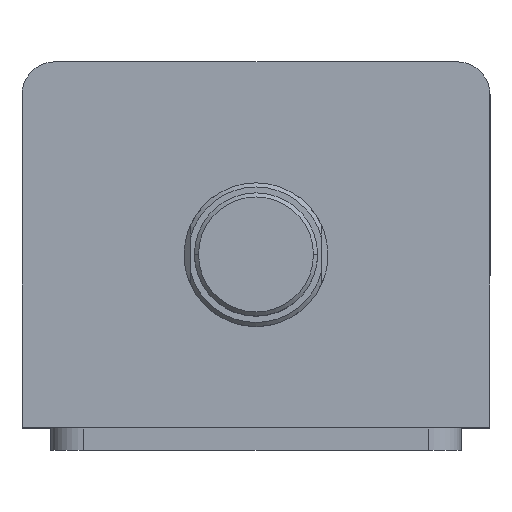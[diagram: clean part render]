
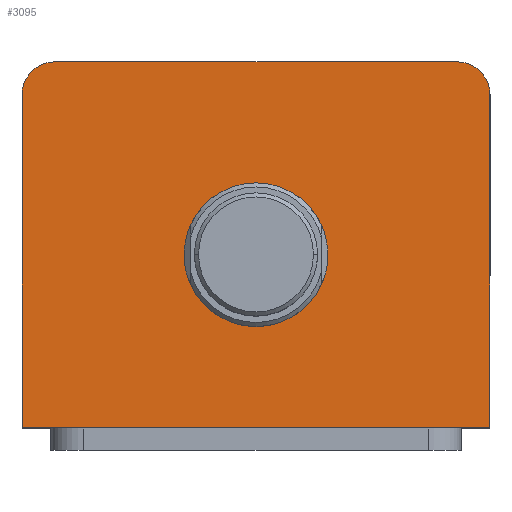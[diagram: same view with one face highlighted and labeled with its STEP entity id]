
A CAD part, top view. The second image highlights one B-rep face of the part: STEP entity #3095.
In plain terms, the highlighted planar face has unit normal (0, 0, 1).
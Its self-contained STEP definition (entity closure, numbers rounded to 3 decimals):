
#87 = EDGE_CURVE ( 'NONE', #836, #772, #621, .T. ) ;
#240 = CARTESIAN_POINT ( 'NONE',  ( -17.5, -2.5, 147. ) ) ;
#241 = CARTESIAN_POINT ( 'NONE',  ( -57., -44.5, 147. ) ) ;
#242 = CARTESIAN_POINT ( 'NONE',  ( 17.5, -2.5, 147. ) ) ;
#243 = CARTESIAN_POINT ( 'NONE',  ( 57., -44.5, 147. ) ) ;
#326 = CARTESIAN_POINT ( 'NONE',  ( 57., 36.5, 147. ) ) ;
#617 = VECTOR ( 'NONE', #643, 1000. ) ;
#621 = LINE ( 'NONE', #648, #617 ) ;
#643 = DIRECTION ( 'NONE',  ( 0., 1., 0. ) ) ;
#648 = CARTESIAN_POINT ( 'NONE',  ( 57., 44.5, 147. ) ) ;
#772 = VERTEX_POINT ( 'NONE', #326 ) ;
#836 = VERTEX_POINT ( 'NONE', #243 ) ;
#837 = VERTEX_POINT ( 'NONE', #242 ) ;
#838 = VERTEX_POINT ( 'NONE', #241 ) ;
#839 = VERTEX_POINT ( 'NONE', #240 ) ;
#865 = VERTEX_POINT ( 'NONE', #3670 ) ;
#1218 = ORIENTED_EDGE ( 'NONE', *, *, #1334, .F. ) ;
#1219 = ORIENTED_EDGE ( 'NONE', *, *, #1331, .F. ) ;
#1220 = ORIENTED_EDGE ( 'NONE', *, *, #3676, .T. ) ;
#1221 = ORIENTED_EDGE ( 'NONE', *, *, #2203, .T. ) ;
#1222 = ORIENTED_EDGE ( 'NONE', *, *, #2207, .T. ) ;
#1223 = ORIENTED_EDGE ( 'NONE', *, *, #1340, .T. ) ;
#1224 = ORIENTED_EDGE ( 'NONE', *, *, #87, .T. ) ;
#1225 = ORIENTED_EDGE ( 'NONE', *, *, #2192, .T. ) ;
#1331 = EDGE_CURVE ( 'NONE', #839, #837, #1650, .T. ) ;
#1334 = EDGE_CURVE ( 'NONE', #837, #839, #1655, .T. ) ;
#1340 = EDGE_CURVE ( 'NONE', #838, #836, #1663, .T. ) ;
#1650 = CIRCLE ( 'NONE', #2652, 17.5 ) ;
#1655 = CIRCLE ( 'NONE', #2654, 17.5 ) ;
#1663 = LINE ( 'NONE', #3563, #1666 ) ;
#1666 = VECTOR ( 'NONE', #3562, 1000. ) ;
#1675 = CIRCLE ( 'NONE', #2670, 8. ) ;
#1691 = CIRCLE ( 'NONE', #2679, 8. ) ;
#1697 = LINE ( 'NONE', #3066, #1700 ) ;
#1700 = VECTOR ( 'NONE', #3061, 1000. ) ;
#1852 = FACE_BOUND ( 'NONE', #2590, .T. ) ;
#1859 = FACE_OUTER_BOUND ( 'NONE', #2392, .T. ) ;
#1912 = LINE ( 'NONE', #3370, #1915 ) ;
#1915 = VECTOR ( 'NONE', #3368, 1000. ) ;
#2192 = EDGE_CURVE ( 'NONE', #772, #3689, #1675, .T. ) ;
#2203 = EDGE_CURVE ( 'NONE', #3690, #865, #1691, .T. ) ;
#2207 = EDGE_CURVE ( 'NONE', #865, #838, #1697, .T. ) ;
#2392 = EDGE_LOOP ( 'NONE', ( #1220, #1221, #1222, #1223, #1224, #1225 ) ) ;
#2590 = EDGE_LOOP ( 'NONE', ( #1218, #1219 ) ) ;
#2652 = AXIS2_PLACEMENT_3D ( 'NONE', #3601, #3599, #3595 ) ;
#2654 = AXIS2_PLACEMENT_3D ( 'NONE', #3588, #3586, #3585 ) ;
#2670 = AXIS2_PLACEMENT_3D ( 'NONE', #3485, #3484, #3483 ) ;
#2679 = AXIS2_PLACEMENT_3D ( 'NONE', #3090, #3088, #3086 ) ;
#2737 = AXIS2_PLACEMENT_3D ( 'NONE', #3274, #3269, #3266 ) ;
#3061 = DIRECTION ( 'NONE',  ( 0., -1., 0. ) ) ;
#3066 = CARTESIAN_POINT ( 'NONE',  ( -57., 44.5, 147. ) ) ;
#3086 = DIRECTION ( 'NONE',  ( 1., 0., 0. ) ) ;
#3088 = DIRECTION ( 'NONE',  ( 0., 0., 1. ) ) ;
#3090 = CARTESIAN_POINT ( 'NONE',  ( -49., 36.5, 147. ) ) ;
#3095 = ADVANCED_FACE ( 'NONE', ( #1852, #1859 ), #3277, .T. ) ;
#3266 = DIRECTION ( 'NONE',  ( 1., 0., 0. ) ) ;
#3269 = DIRECTION ( 'NONE',  ( 0., 0., 1. ) ) ;
#3274 = CARTESIAN_POINT ( 'NONE',  ( 0., 0., 147. ) ) ;
#3277 = PLANE ( 'NONE',  #2737 ) ;
#3328 = CARTESIAN_POINT ( 'NONE',  ( 49., 44.5, 147. ) ) ;
#3347 = CARTESIAN_POINT ( 'NONE',  ( -49., 44.5, 147. ) ) ;
#3368 = DIRECTION ( 'NONE',  ( -1., 0., 0. ) ) ;
#3370 = CARTESIAN_POINT ( 'NONE',  ( -57., 44.5, 147. ) ) ;
#3483 = DIRECTION ( 'NONE',  ( 1., 0., 0. ) ) ;
#3484 = DIRECTION ( 'NONE',  ( 0., 0., 1. ) ) ;
#3485 = CARTESIAN_POINT ( 'NONE',  ( 49., 36.5, 147. ) ) ;
#3562 = DIRECTION ( 'NONE',  ( 1., 0., 0. ) ) ;
#3563 = CARTESIAN_POINT ( 'NONE',  ( -57., -44.5, 147. ) ) ;
#3585 = DIRECTION ( 'NONE',  ( 1., 0., 0. ) ) ;
#3586 = DIRECTION ( 'NONE',  ( 0., 0., 1. ) ) ;
#3588 = CARTESIAN_POINT ( 'NONE',  ( 0., -2.5, 147. ) ) ;
#3595 = DIRECTION ( 'NONE',  ( 1., 0., 0. ) ) ;
#3599 = DIRECTION ( 'NONE',  ( 0., 0., 1. ) ) ;
#3601 = CARTESIAN_POINT ( 'NONE',  ( 0., -2.5, 147. ) ) ;
#3670 = CARTESIAN_POINT ( 'NONE',  ( -57., 36.5, 147. ) ) ;
#3676 = EDGE_CURVE ( 'NONE', #3689, #3690, #1912, .T. ) ;
#3689 = VERTEX_POINT ( 'NONE', #3328 ) ;
#3690 = VERTEX_POINT ( 'NONE', #3347 ) ;
